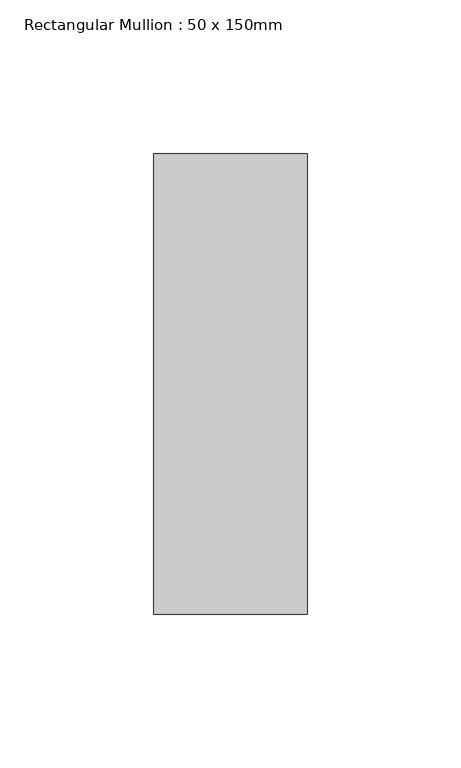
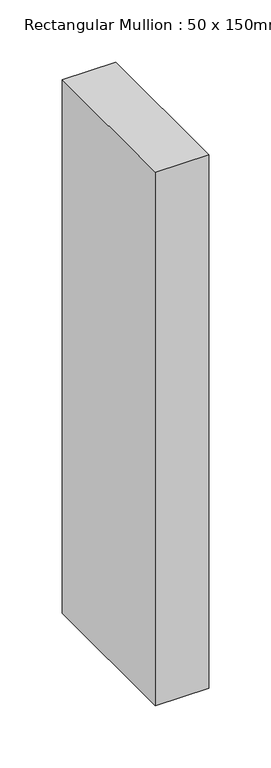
"""IFC4 building model written with IfcOpenShell, lengths in millimetres: member geometry, Rectangular Mullion : 50 x 150mm."""

from ifc_helpers import new_model, si_unit, frame, origin, place, context, project, spatial, polyline, outline, extrude, source, transform, mapped, element, save


def rectangular_mullion_50_x_150mm_754370e9(model_context):
    return source(origin(), model_context, "Body", "SweptSolid", [
        extrude(outline(polyline([(0.0, 75.0), (0.0, -75.0), (-50.0, -75.0), (-50.0, 75.0), (0.0, 75.0)])), frame((0.0, 0.0, -525.0000002), z_axis=(0.0, 0.0, 1.0), x_axis=(1.0, 0.0, 0.0)), (0.0, 0.0, 1.0), 525.0000002),
    ])


if __name__ == "__main__":
    model = new_model("IFC4")
    model_context = context("Model", 3, world=origin())
    ifc_project = project(units=[si_unit("LENGTHUNIT", "METRE", prefix="MILLI")], contexts=[model_context])
    site = spatial("IfcSite", under=ifc_project)
    building = spatial("IfcBuilding", under=site)
    placement = place(None, origin())
    rectangular_mullion_50_x_150mm_shape = rectangular_mullion_50_x_150mm_754370e9(model_context)
    element("IfcMember", 1, ObjectType="Rectangular Mullion : 50 x 150mm", at=placement, inside=building, context=model_context, shape_type="MappedRepresentation", body=[
        mapped(rectangular_mullion_50_x_150mm_shape, transform((0.0, 0.0, 0.0), x_axis=(1.0, 0.0, 0.0), y_axis=(0.0, 1.0, 0.0), z_axis=(0.0, 0.0, 1.0))),
    ])
    save(model, "model.ifc")
